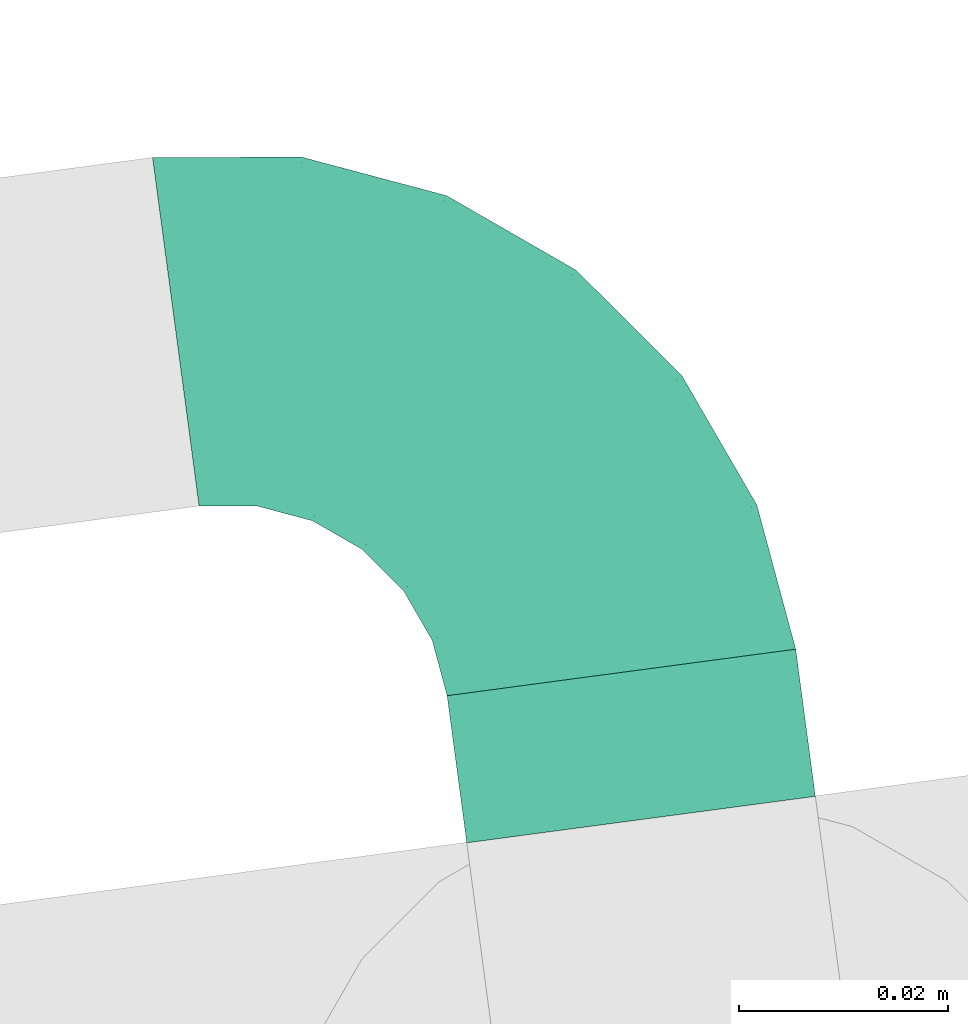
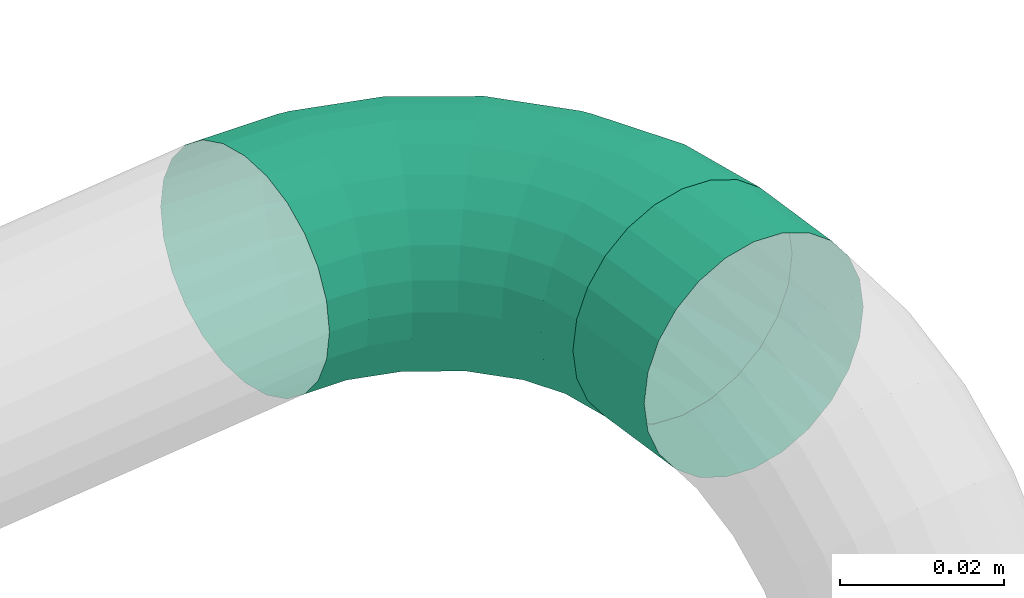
# One storey, part 362 of 374: 2 flow segments.
"""IFC2X3 building model written with IfcOpenShell, lengths in metres."""

from ifc_helpers import new_model, si_unit, direction, origin, place, context, subcontext, project, spatial, open_shell, surface_model, source, transform, mapped, element, save


model = new_model("IFC2X3")

# Units and contexts
model_context = context("Model", 3, precision=1e-05, world=origin(), true_north=direction((-0.4480736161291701, 0.8939966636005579)))
body_context = subcontext(model_context, "Body", "Model", "MODEL_VIEW")
ifc_project = project(units=[si_unit("LENGTHUNIT", "METRE"), si_unit("AREAUNIT", "SQUARE_METRE"), si_unit("VOLUMEUNIT", "CUBIC_METRE"), si_unit("PLANEANGLEUNIT", "RADIAN"), si_unit("THERMODYNAMICTEMPERATUREUNIT", "KELVIN"), si_unit("MASSUNIT", "GRAM", prefix="KILO"), si_unit("TIMEUNIT", "SECOND")], contexts=[model_context])

# Site, building, storey
site_placement = place(None, origin())
site = spatial("IfcSite", under=ifc_project, at=site_placement, Name="Site 1", CompositionType="ELEMENT")
building_placement = place(site_placement, origin())
building = spatial("IfcBuilding", under=site, at=building_placement, Name="Undefined", CompositionType="ELEMENT")
storey_placement = place(building_placement, origin())
storey = spatial("IfcBuildingStorey", under=building, at=storey_placement, Name="Rez de chauss\x8ee", CompositionType="ELEMENT", Elevation=0.0)

# Flow segments
shared_shape_1 = source(origin(), body_context, "Body", "SurfaceModel", [
    surface_model("IfcFaceBasedSurfaceModel", [(0.014318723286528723, 0.0, 8.8817842e-16), (0.01424378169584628, 0.004398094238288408, 0.0), (7.494159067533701e-05, 0.004398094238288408, 8.8817842e-16), (0.0, 0.0, 0.0), (-0.013611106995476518, 0.004872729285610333, -0.0036363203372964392), (-0.01383082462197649, 0.000479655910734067, -0.003674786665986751), (-0.02588168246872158, 0.005789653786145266, -0.010661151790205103), (-0.026231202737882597, 0.0014062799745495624, -0.010773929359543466), (-0.03590056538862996, 0.007086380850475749, -0.02059576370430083), (-0.036356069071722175, 0.0027167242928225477, -0.020813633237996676), (-0.04298498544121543, 0.008674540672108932, -0.03276312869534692), (-0.0435154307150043, 0.0043216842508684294, -0.03310970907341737), (-0.046652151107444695, 0.010445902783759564, -0.04633406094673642), (-0.04722138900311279, 0.006111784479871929, -0.04682419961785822), (0.01402406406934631, 0.008643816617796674, -0.00112889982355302), (0.0002946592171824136, 0.00864381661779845, -0.001128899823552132), (-0.01296692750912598, 0.009103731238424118, -0.00465244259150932), (-0.02485694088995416, 0.009992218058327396, -0.011459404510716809), (-0.03456509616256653, 0.011248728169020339, -0.021085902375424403), (-0.041429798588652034, 0.012787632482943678, -0.03287590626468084), (-0.04498323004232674, 0.014504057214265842, -0.04602594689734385), (0.013674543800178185, 0.012447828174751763, -0.0033097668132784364), (0.0006441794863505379, 0.012447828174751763, -0.003309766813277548), (-0.011942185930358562, 0.012884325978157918, -0.006653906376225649), (-0.023226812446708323, 0.013727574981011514, -0.01311428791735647), (-0.032440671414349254, 0.014920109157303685, -0.022250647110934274), (-0.038955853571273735, 0.016380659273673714, -0.03344035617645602), (-0.04232836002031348, 0.01800969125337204, -0.04592085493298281), (0.013219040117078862, 0.01555089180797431, -0.006393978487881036), (0.0010996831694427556, 0.015550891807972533, -0.006393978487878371), (-0.010606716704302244, 0.015956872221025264, -0.009504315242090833), (-0.021102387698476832, 0.016741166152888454, -0.01551302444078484), (-0.029672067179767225, 0.01785032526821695, -0.024010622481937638), (-0.035731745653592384, 0.01920876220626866, -0.03441801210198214), (-0.038868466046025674, 0.02072390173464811, -0.04602594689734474), (0.012688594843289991, 0.01774153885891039, -0.010171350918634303), (0.0016301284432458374, 0.01774153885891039, -0.010171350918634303), (-0.009051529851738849, 0.018111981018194, -0.013009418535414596), (-0.01862844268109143, 0.01882762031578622, -0.018492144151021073), (-0.026447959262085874, 0.019839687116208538, -0.02624588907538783), (-0.03197719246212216, 0.021079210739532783, -0.03574224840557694), (-0.034839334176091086, 0.022461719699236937, -0.04633406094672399), (0.012119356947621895, 0.018870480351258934, -0.014384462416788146), (0.0021993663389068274, 0.018870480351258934, -0.014384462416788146), (-0.007382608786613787, 0.019202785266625, -0.016930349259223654), (-0.015973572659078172, 0.019844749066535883, -0.021848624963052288), (-0.022988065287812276, 0.020752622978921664, -0.02880411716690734), (-0.027948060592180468, 0.021864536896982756, -0.03732282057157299), (-0.030515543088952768, 0.023104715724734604, -0.04682419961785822), (0.0115501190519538, 0.018860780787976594, -0.01874619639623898), (0.002768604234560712, 0.018860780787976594, -0.01874619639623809), (-0.005713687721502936, 0.019154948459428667, -0.020999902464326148), (-0.013318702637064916, 0.01972323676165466, -0.025353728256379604), (-0.019528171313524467, 0.02052691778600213, -0.03151096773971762), (-0.023918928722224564, 0.021511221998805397, -0.03905201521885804), (-0.02619175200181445, 0.02260907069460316, -0.04746296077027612), (0.011019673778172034, 0.01771310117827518, -0.022959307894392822), (0.0032990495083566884, 0.01771310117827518, -0.022959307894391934), (-0.004158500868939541, 0.017971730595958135, -0.0249407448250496), (-0.010844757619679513, 0.018471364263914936, -0.028768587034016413), (-0.01630406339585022, 0.019177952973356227, -0.03418197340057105), (-0.020164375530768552, 0.0200433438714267, -0.04081199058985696), (-0.022162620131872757, 0.02100856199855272, -0.04820681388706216), (0.010564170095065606, 0.015505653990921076, -0.02673668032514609), (0.0037545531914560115, 0.015505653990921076, -0.0267366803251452), (-0.002823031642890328, 0.01573376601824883, -0.028484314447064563), (-0.008720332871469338, 0.016174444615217, -0.03186048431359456), (-0.01353545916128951, 0.016797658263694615, -0.036635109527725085), (-0.016940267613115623, 0.017560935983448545, -0.042482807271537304), (-0.018702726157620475, 0.01841226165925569, -0.04900506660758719), (0.010214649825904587, 0.012388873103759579, -0.029820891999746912), (0.004104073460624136, 0.012388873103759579, -0.029820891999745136), (-0.0017982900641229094, 0.012593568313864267, -0.03138912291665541), (-0.007090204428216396, 0.012989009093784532, -0.03441871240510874), (-0.011411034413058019, 0.013548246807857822, -0.0387031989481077), (-0.014466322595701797, 0.014233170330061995, -0.04395060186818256), (-0.01604785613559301, 0.014997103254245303, -0.0498033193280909), (0.009994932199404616, 0.008575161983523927, -0.03200175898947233), (0.004323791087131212, 0.00857516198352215, -0.03200175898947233), (-0.001154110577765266, 0.00876513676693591, -0.03345721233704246), (-0.006065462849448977, 0.009132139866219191, -0.03626893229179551), (-0.0100755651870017, 0.009651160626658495, -0.04024530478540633), (-0.012911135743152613, 0.010286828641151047, -0.04511534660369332), (-0.014378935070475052, 0.010995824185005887, -0.05054717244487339), (0.009919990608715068, 0.004324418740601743, -0.03313065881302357), (0.004398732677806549, 0.004324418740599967, -0.03313065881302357), (-0.0009343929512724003, 0.004509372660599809, -0.03454764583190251), (-0.005715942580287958, 0.004866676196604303, -0.03728505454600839), (-0.009620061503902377, 0.005371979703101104, -0.041156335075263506), (-0.012380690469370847, 0.005990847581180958, -0.04589766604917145), (-0.013809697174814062, 0.006681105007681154, -0.05118593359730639), (0.009994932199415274, -7.367549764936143e-05, -0.03313065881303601), (0.004323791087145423, -7.367549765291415e-05, -0.033130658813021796), (-0.0011541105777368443, 0.0001162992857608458, -0.03458611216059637), (-0.0060654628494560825, 0.00048330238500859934, -0.03739783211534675), (-0.010075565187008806, 0.0010023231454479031, -0.04137420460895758), (-0.012911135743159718, 0.001637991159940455, -0.04624424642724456), (-0.014378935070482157, 0.002346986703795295, -0.05167607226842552), (0.010214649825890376, -0.004319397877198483, -0.03200175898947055), (0.00410407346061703, -0.0043193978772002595, -0.03200175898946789), (-0.0017982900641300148, -0.004114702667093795, -0.03356998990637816), (-0.007090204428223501, -0.0037192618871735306, -0.036599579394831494), (-0.011411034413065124, -0.00316002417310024, -0.04088406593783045), (-0.014466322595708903, -0.002475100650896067, -0.04613146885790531), (-0.016047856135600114, -0.0017111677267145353, -0.05198418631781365), (0.0105641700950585, -0.008123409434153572, -0.029820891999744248), (0.003754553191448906, -0.008123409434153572, -0.02982089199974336), (-0.0028230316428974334, -0.007895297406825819, -0.03156852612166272), (-0.008720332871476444, -0.007454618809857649, -0.03494469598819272), (-0.013535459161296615, -0.006831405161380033, -0.03971932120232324), (-0.016940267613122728, -0.006068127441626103, -0.04556701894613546), (-0.01870272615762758, -0.005216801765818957, -0.05208927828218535), (0.011019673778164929, -0.011226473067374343, -0.026736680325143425), (0.003299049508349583, -0.011226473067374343, -0.026736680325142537), (-0.004158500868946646, -0.010967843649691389, -0.028718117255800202), (-0.010844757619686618, -0.010468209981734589, -0.032545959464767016), (-0.016304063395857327, -0.009761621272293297, -0.037959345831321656), (-0.020164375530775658, -0.008896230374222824, -0.044589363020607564), (-0.022162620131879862, -0.007931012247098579, -0.051984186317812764), (0.011550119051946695, -0.013417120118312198, -0.02295930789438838), (0.0027686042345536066, -0.013417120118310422, -0.022959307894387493), (-0.005713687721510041, -0.013122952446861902, -0.02521301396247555), (-0.013318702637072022, -0.012554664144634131, -0.029566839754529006), (-0.019528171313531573, -0.011750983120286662, -0.035724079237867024), (-0.02391892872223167, -0.010766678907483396, -0.04326512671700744), (-0.026191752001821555, -0.009668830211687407, -0.05167607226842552), (0.01211935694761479, -0.014546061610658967, -0.018746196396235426), (0.002199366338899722, -0.014546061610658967, -0.018746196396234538), (-0.007382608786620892, -0.0142137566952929, -0.021292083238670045), (-0.015973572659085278, -0.013571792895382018, -0.02621035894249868), (-0.02298806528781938, -0.012663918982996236, -0.03316585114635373), (-0.027948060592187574, -0.011552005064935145, -0.04168455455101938), (-0.030515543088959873, -0.010311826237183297, -0.05118593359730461), (0.012688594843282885, -0.014536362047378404, -0.014384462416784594), (0.001630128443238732, -0.014536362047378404, -0.014384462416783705), (-0.009051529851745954, -0.014165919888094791, -0.017222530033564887), (-0.018628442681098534, -0.013450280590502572, -0.022705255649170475), (-0.02644795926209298, -0.012438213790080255, -0.03045900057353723), (-0.03197719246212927, -0.011198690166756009, -0.03995535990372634), (-0.03483933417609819, -0.009816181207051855, -0.05054717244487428), (0.013219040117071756, -0.013388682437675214, -0.010171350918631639), (0.0010996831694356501, -0.01338868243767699, -0.010171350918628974), (-0.010606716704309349, -0.01298270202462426, -0.013281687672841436), (-0.021102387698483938, -0.01219840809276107, -0.019290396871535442), (-0.02967206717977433, -0.011089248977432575, -0.02778799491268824), (-0.03573174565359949, -0.009730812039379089, -0.038195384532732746), (-0.03886846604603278, -0.008215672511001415, -0.04980331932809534), (0.01367454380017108, -0.011181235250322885, -0.006393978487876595), (0.0006441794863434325, -0.011181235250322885, -0.006393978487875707), (-0.011942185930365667, -0.01074473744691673, -0.009738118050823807), (-0.023226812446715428, -0.009901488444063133, -0.01619849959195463), (-0.03244067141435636, -0.008708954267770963, -0.02533485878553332), (-0.03895585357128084, -0.007248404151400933, -0.03652456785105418), (-0.04232836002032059, -0.005619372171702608, -0.04900506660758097), (0.014024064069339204, -0.008064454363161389, -0.003309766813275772), (0.0002946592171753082, -0.008064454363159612, -0.0033097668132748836), (-0.012966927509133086, -0.0076045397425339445, -0.006833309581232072), (-0.024856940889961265, -0.0067160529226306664, -0.01364027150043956), (-0.03456509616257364, -0.005459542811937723, -0.023266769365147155), (-0.04142979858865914, -0.003920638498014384, -0.03505677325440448), (-0.044983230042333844, -0.00220421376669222, -0.0482068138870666), (0.014243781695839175, -0.004250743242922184, -0.0011288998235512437), (7.494159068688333e-05, -0.004250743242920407, -0.0011288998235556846), (-0.013611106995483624, -0.0037761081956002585, -0.004765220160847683), (-0.025881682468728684, -0.002859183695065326, -0.011790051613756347), (-0.03590056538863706, -0.001562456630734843, -0.021724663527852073), (-0.04298498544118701, 2.570319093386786e-05, -0.03389202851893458), (-0.0466521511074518, 0.0017970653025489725, -0.047462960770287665), (7.494159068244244e-05, -0.004250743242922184, -0.0011288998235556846)], [open_shell([[[0, 1, 2, 3]], [[3, 2, 4, 5]], [[5, 4, 6, 7]], [[7, 6, 8, 9]], [[9, 8, 10, 11]], [[11, 10, 12, 13]], [[1, 14, 15, 2]], [[2, 15, 16, 4]], [[4, 16, 17, 6]], [[6, 17, 18, 8]], [[8, 18, 19, 10]], [[10, 19, 20, 12]], [[14, 21, 22, 15]], [[15, 22, 23, 16]], [[16, 23, 24, 17]], [[17, 24, 25, 18]], [[18, 25, 26, 19]], [[19, 26, 27, 20]], [[21, 28, 29, 22]], [[22, 29, 30, 23]], [[23, 30, 31, 24]], [[24, 31, 32, 25]], [[25, 32, 33, 26]], [[26, 33, 34, 27]], [[28, 35, 36, 29]], [[29, 36, 37, 30]], [[30, 37, 38, 31]], [[31, 38, 39, 32]], [[32, 39, 40, 33]], [[33, 40, 41, 34]], [[35, 42, 43, 36]], [[36, 43, 44, 37]], [[37, 44, 45, 38]], [[38, 45, 46, 39]], [[39, 46, 47, 40]], [[40, 47, 48, 41]], [[42, 49, 50, 43]], [[43, 50, 51, 44]], [[44, 51, 52, 45]], [[45, 52, 53, 46]], [[46, 53, 54, 47]], [[47, 54, 55, 48]], [[49, 56, 57, 50]], [[50, 57, 58, 51]], [[51, 58, 59, 52]], [[52, 59, 60, 53]], [[53, 60, 61, 54]], [[54, 61, 62, 55]], [[56, 63, 64, 57]], [[57, 64, 65, 58]], [[58, 65, 66, 59]], [[59, 66, 67, 60]], [[60, 67, 68, 61]], [[61, 68, 69, 62]], [[63, 70, 71, 64]], [[64, 71, 72, 65]], [[65, 72, 73, 66]], [[66, 73, 74, 67]], [[67, 74, 75, 68]], [[68, 75, 76, 69]], [[70, 77, 78, 71]], [[71, 78, 79, 72]], [[72, 79, 80, 73]], [[73, 80, 81, 74]], [[74, 81, 82, 75]], [[75, 82, 83, 76]], [[77, 84, 85, 78]], [[78, 85, 86, 79]], [[79, 86, 87, 80]], [[80, 87, 88, 81]], [[81, 88, 89, 82]], [[82, 89, 90, 83]], [[84, 91, 92, 85]], [[85, 92, 93, 86]], [[86, 93, 94, 87]], [[87, 94, 95, 88]], [[88, 95, 96, 89]], [[89, 96, 97, 90]], [[91, 98, 99, 92]], [[92, 99, 100, 93]], [[93, 100, 101, 94]], [[94, 101, 102, 95]], [[95, 102, 103, 96]], [[96, 103, 104, 97]], [[98, 105, 106, 99]], [[99, 106, 107, 100]], [[100, 107, 108, 101]], [[101, 108, 109, 102]], [[102, 109, 110, 103]], [[103, 110, 111, 104]], [[105, 112, 113, 106]], [[106, 113, 114, 107]], [[107, 114, 115, 108]], [[108, 115, 116, 109]], [[109, 116, 117, 110]], [[110, 117, 118, 111]], [[112, 119, 120, 113]], [[113, 120, 121, 114]], [[114, 121, 122, 115]], [[115, 122, 123, 116]], [[116, 123, 124, 117]], [[117, 124, 125, 118]], [[119, 126, 127, 120]], [[120, 127, 128, 121]], [[121, 128, 129, 122]], [[122, 129, 130, 123]], [[123, 130, 131, 124]], [[124, 131, 132, 125]], [[126, 133, 134, 127]], [[127, 134, 135, 128]], [[128, 135, 136, 129]], [[129, 136, 137, 130]], [[130, 137, 138, 131]], [[131, 138, 139, 132]], [[133, 140, 141, 134]], [[134, 141, 142, 135]], [[135, 142, 143, 136]], [[136, 143, 144, 137]], [[137, 144, 145, 138]], [[138, 145, 146, 139]], [[140, 147, 148, 141]], [[141, 148, 149, 142]], [[142, 149, 150, 143]], [[143, 150, 151, 144]], [[144, 151, 152, 145]], [[145, 152, 153, 146]], [[147, 154, 155, 148]], [[148, 155, 156, 149]], [[149, 156, 157, 150]], [[150, 157, 158, 151]], [[151, 158, 159, 152]], [[152, 159, 160, 153]], [[154, 161, 162, 155]], [[155, 162, 163, 156]], [[156, 163, 164, 157]], [[157, 164, 165, 158]], [[158, 165, 166, 159]], [[159, 166, 167, 160]], [[161, 0, 3, 162]], [[168, 3, 5, 163]], [[163, 5, 7, 164]], [[164, 7, 9, 165]], [[165, 9, 11, 166]], [[166, 11, 13, 167]]])]),
])
flow_segment_1_placement = place(storey_placement, origin())
element("IfcFlowSegment", 1, at=flow_segment_1_placement, inside=storey, Name="Tube coudé", ObjectType="Tube coudé", context=body_context, shape_type="MappedRepresentation", body=[
    mapped(shared_shape_1, transform((66.10114260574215, 20.426287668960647, 4.0051404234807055), x_axis=(0.2605045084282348, -0.9654726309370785, 0.0), y_axis=(-0.12495948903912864, -0.03371665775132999, -0.9915887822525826), z_axis=(0.9573518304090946, 0.2583133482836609, -0.12942830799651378))),
])
shared_shape_2 = source(origin(), body_context, "Body", "SurfaceModel", [
    surface_model("IfcFaceBasedSurfaceModel", [(0.014226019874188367, 0.0, 0.0), (0.014226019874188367, 0.0043987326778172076, -1.4210854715e-14), (0.0, 0.004398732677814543, 0.0), (0.0, 0.0, 0.0), (0.014226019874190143, 0.008647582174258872, -0.0011384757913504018), (0.0, 0.00864758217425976, -0.0011384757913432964), (0.01422601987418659, 0.012456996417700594, -0.0033378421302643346), (0.0, 0.012456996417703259, -0.0033378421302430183), (0.014226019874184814, 0.01556737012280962, -0.006448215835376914), (0.0, 0.015567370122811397, -0.006448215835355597), (0.01422601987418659, 0.017766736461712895, -0.010257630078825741), (0.0, 0.01776673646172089, -0.01025763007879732), (0.014226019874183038, 0.018905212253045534, -0.014506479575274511), (0.0, 0.018905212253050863, -0.01450647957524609), (0.014226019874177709, 0.018905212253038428, -0.018905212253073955), (0.0, 0.018905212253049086, -0.01890521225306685), (0.014226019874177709, 0.017766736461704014, -0.023154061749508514), (0.0, 0.017766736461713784, -0.023154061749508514), (0.014226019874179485, 0.015567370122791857, -0.026963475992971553), (0.0, 0.01556737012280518, -0.026963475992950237), (0.014226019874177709, 0.01245699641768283, -0.030073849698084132), (0.0, 0.012456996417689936, -0.030073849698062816), (0.01422601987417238, 0.008647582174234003, -0.032273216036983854), (0.0, 0.008647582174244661, -0.03227321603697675), (0.014226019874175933, 0.004398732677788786, -0.033411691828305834), (0.0, 0.00439873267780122, -0.03341169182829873), (0.01422601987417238, -2.4868995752e-14, -0.033411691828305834), (0.0, -1.5099033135e-14, -0.03341169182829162), (0.014226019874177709, -0.00424884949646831, -0.032273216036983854), (0.0, -0.004248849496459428, -0.03227321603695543), (0.014226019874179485, -0.008058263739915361, -0.03007384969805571), (0.0, -0.008058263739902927, -0.03007384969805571), (0.014226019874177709, -0.011168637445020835, -0.02696347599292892), (0.0, -0.011168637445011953, -0.02696347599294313), (0.014226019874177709, -0.013368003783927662, -0.023154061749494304), (0.0, -0.013368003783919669, -0.023154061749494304), (0.014226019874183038, -0.014506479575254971, -0.018905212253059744), (0.0, -0.01450647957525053, -0.01890521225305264), (0.01422601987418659, -0.014506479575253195, -0.01450647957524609), (0.0, -0.014506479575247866, -0.014506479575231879), (0.014226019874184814, -0.013368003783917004, -0.01025763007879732), (0.0, -0.013368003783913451, -0.010257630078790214), (0.01422601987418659, -0.011168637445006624, -0.006448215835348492), (0.0, -0.01116863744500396, -0.0064482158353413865), (0.014226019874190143, -0.008058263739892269, -0.0033378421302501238), (0.0, -0.008058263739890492, -0.003337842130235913), (0.014226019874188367, -0.004248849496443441, -0.001138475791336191), (0.0, -0.004248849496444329, -0.00113847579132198)], [open_shell([[[0, 1, 2, 3]], [[1, 4, 5, 2]], [[4, 6, 7, 5]], [[6, 8, 9, 7]], [[8, 10, 11, 9]], [[10, 12, 13, 11]], [[12, 14, 15, 13]], [[14, 16, 17, 15]], [[16, 18, 19, 17]], [[18, 20, 21, 19]], [[20, 22, 23, 21]], [[22, 24, 25, 23]], [[24, 26, 27, 25]], [[26, 28, 29, 27]], [[28, 30, 31, 29]], [[30, 32, 33, 31]], [[32, 34, 35, 33]], [[34, 36, 37, 35]], [[36, 38, 39, 37]], [[38, 40, 41, 39]], [[40, 42, 43, 41]], [[42, 44, 45, 43]], [[44, 46, 47, 45]], [[46, 0, 3, 47]]])]),
])
flow_segment_2_placement = place(storey_placement, origin())
element("IfcFlowSegment", 2, at=flow_segment_2_placement, inside=storey, Name="Tube acier d'après DIN 2448", ObjectType="Tube acier d'après DIN 2448", context=body_context, shape_type="MappedRepresentation", body=[
    mapped(shared_shape_2, transform((66.07146873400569, 20.408006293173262, 4.0051404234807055), x_axis=(0.13225639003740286, -0.9912155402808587, 0.0), y_axis=(0.12937959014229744, 0.017262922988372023, 0.9914448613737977), z_axis=(-0.9827355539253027, -0.1311249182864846, 0.13052619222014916))),
])

save(model, "model.ifc")
